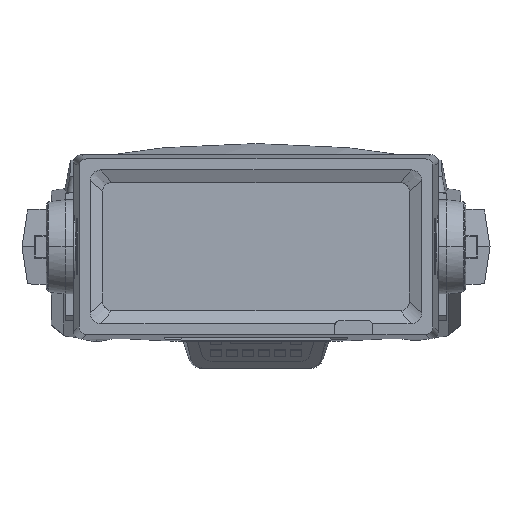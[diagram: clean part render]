
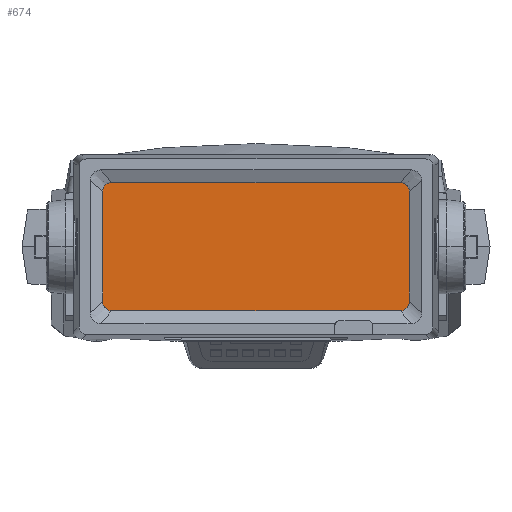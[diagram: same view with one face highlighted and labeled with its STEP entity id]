
A CAD part, top view. The second image highlights one B-rep face of the part: STEP entity #674.
In plain terms, the highlighted planar face has unit normal (0, 0, 1).
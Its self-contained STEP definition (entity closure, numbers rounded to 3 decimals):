
#674=ADVANCED_FACE('',(#1328),#10750,.T.);
#1328=FACE_OUTER_BOUND('',#2025,.T.);
#2025=EDGE_LOOP('',(#5362,#5363,#5364,#5365,#5366,#5367,#5368,#5369));
#5362=ORIENTED_EDGE('',*,*,#7204,.T.);
#5363=ORIENTED_EDGE('',*,*,#7201,.T.);
#5364=ORIENTED_EDGE('',*,*,#7216,.T.);
#5365=ORIENTED_EDGE('',*,*,#7214,.T.);
#5366=ORIENTED_EDGE('',*,*,#7212,.T.);
#5367=ORIENTED_EDGE('',*,*,#7210,.T.);
#5368=ORIENTED_EDGE('',*,*,#7209,.T.);
#5369=ORIENTED_EDGE('',*,*,#7206,.T.);
#7201=EDGE_CURVE('',#10140,#10141,#9066,.T.);
#7204=EDGE_CURVE('',#10143,#10140,#8399,.T.);
#7206=EDGE_CURVE('',#10145,#10143,#9067,.T.);
#7209=EDGE_CURVE('',#10147,#10145,#8403,.T.);
#7210=EDGE_CURVE('',#10149,#10147,#9068,.T.);
#7212=EDGE_CURVE('',#10151,#10149,#8405,.T.);
#7214=EDGE_CURVE('',#10153,#10151,#9069,.T.);
#7216=EDGE_CURVE('',#10141,#10153,#8408,.T.);
#8399=B_SPLINE_CURVE_WITH_KNOTS('',1,(#23862,#23863),.UNSPECIFIED.,.F.,
 .F.,(2,2),(0.,227.),.UNSPECIFIED.);
#8403=B_SPLINE_CURVE_WITH_KNOTS('',1,(#23873,#23874),.UNSPECIFIED.,.F.,
 .F.,(2,2),(0.,87.),.UNSPECIFIED.);
#8405=B_SPLINE_CURVE_WITH_KNOTS('',1,(#23880,#23881),.UNSPECIFIED.,.F.,
 .F.,(2,2),(0.,227.),.UNSPECIFIED.);
#8408=B_SPLINE_CURVE_WITH_KNOTS('',1,(#23889,#23890),.UNSPECIFIED.,.F.,
 .F.,(2,2),(0.,87.),.UNSPECIFIED.);
#9066=(
BOUNDED_CURVE()
B_SPLINE_CURVE(2,(#23855,#23856,#23857),.UNSPECIFIED.,.F.,.F.)
B_SPLINE_CURVE_WITH_KNOTS((3,3),(0.,10.838),.UNSPECIFIED.)
CURVE()
GEOMETRIC_REPRESENTATION_ITEM()
RATIONAL_B_SPLINE_CURVE((1.,0.707,1.))
REPRESENTATION_ITEM('')
);
#9067=(
BOUNDED_CURVE()
B_SPLINE_CURVE(2,(#23866,#23867,#23868),.UNSPECIFIED.,.F.,.F.)
B_SPLINE_CURVE_WITH_KNOTS((3,3),(0.,10.838),.UNSPECIFIED.)
CURVE()
GEOMETRIC_REPRESENTATION_ITEM()
RATIONAL_B_SPLINE_CURVE((1.,0.707,1.))
REPRESENTATION_ITEM('')
);
#9068=(
BOUNDED_CURVE()
B_SPLINE_CURVE(2,(#23875,#23876,#23877),.UNSPECIFIED.,.F.,.F.)
B_SPLINE_CURVE_WITH_KNOTS((3,3),(0.,10.838),.UNSPECIFIED.)
CURVE()
GEOMETRIC_REPRESENTATION_ITEM()
RATIONAL_B_SPLINE_CURVE((1.,0.707,1.))
REPRESENTATION_ITEM('')
);
#9069=(
BOUNDED_CURVE()
B_SPLINE_CURVE(2,(#23884,#23885,#23886),.UNSPECIFIED.,.F.,.F.)
B_SPLINE_CURVE_WITH_KNOTS((3,3),(0.,10.838),.UNSPECIFIED.)
CURVE()
GEOMETRIC_REPRESENTATION_ITEM()
RATIONAL_B_SPLINE_CURVE((1.,0.707,1.))
REPRESENTATION_ITEM('')
);
#10140=VERTEX_POINT('',#22561);
#10141=VERTEX_POINT('',#22562);
#10143=VERTEX_POINT('',#22564);
#10145=VERTEX_POINT('',#22566);
#10147=VERTEX_POINT('',#22568);
#10149=VERTEX_POINT('',#22570);
#10151=VERTEX_POINT('',#22572);
#10153=VERTEX_POINT('',#22574);
#10750=PLANE('',#11444);
#11444=AXIS2_PLACEMENT_3D('',#22301,#11975,$);
#11975=DIRECTION('',(0.,0.,1.));
#22301=CARTESIAN_POINT('',(377.192,-65.392,14.35));
#22561=CARTESIAN_POINT('',(613.5,-64.384,14.35));
#22562=CARTESIAN_POINT('',(620.4,-57.484,14.35));
#22564=CARTESIAN_POINT('',(386.5,-64.384,14.35));
#22566=CARTESIAN_POINT('',(379.6,-57.484,14.35));
#22568=CARTESIAN_POINT('',(379.6,29.516,14.35));
#22570=CARTESIAN_POINT('',(386.5,36.416,14.35));
#22572=CARTESIAN_POINT('',(613.5,36.416,14.35));
#22574=CARTESIAN_POINT('',(620.4,29.516,14.35));
#23855=CARTESIAN_POINT('',(613.5,-64.384,14.35));
#23856=CARTESIAN_POINT('',(620.4,-64.384,14.35));
#23857=CARTESIAN_POINT('',(620.4,-57.484,14.35));
#23862=CARTESIAN_POINT('',(386.5,-64.384,14.35));
#23863=CARTESIAN_POINT('',(613.5,-64.384,14.35));
#23866=CARTESIAN_POINT('',(379.6,-57.484,14.35));
#23867=CARTESIAN_POINT('',(379.6,-64.384,14.35));
#23868=CARTESIAN_POINT('',(386.5,-64.384,14.35));
#23873=CARTESIAN_POINT('',(379.6,29.516,14.35));
#23874=CARTESIAN_POINT('',(379.6,-57.484,14.35));
#23875=CARTESIAN_POINT('',(386.5,36.416,14.35));
#23876=CARTESIAN_POINT('',(379.6,36.416,14.35));
#23877=CARTESIAN_POINT('',(379.6,29.516,14.35));
#23880=CARTESIAN_POINT('',(613.5,36.416,14.35));
#23881=CARTESIAN_POINT('',(386.5,36.416,14.35));
#23884=CARTESIAN_POINT('',(620.4,29.516,14.35));
#23885=CARTESIAN_POINT('',(620.4,36.416,14.35));
#23886=CARTESIAN_POINT('',(613.5,36.416,14.35));
#23889=CARTESIAN_POINT('',(620.4,-57.484,14.35));
#23890=CARTESIAN_POINT('',(620.4,29.516,14.35));
